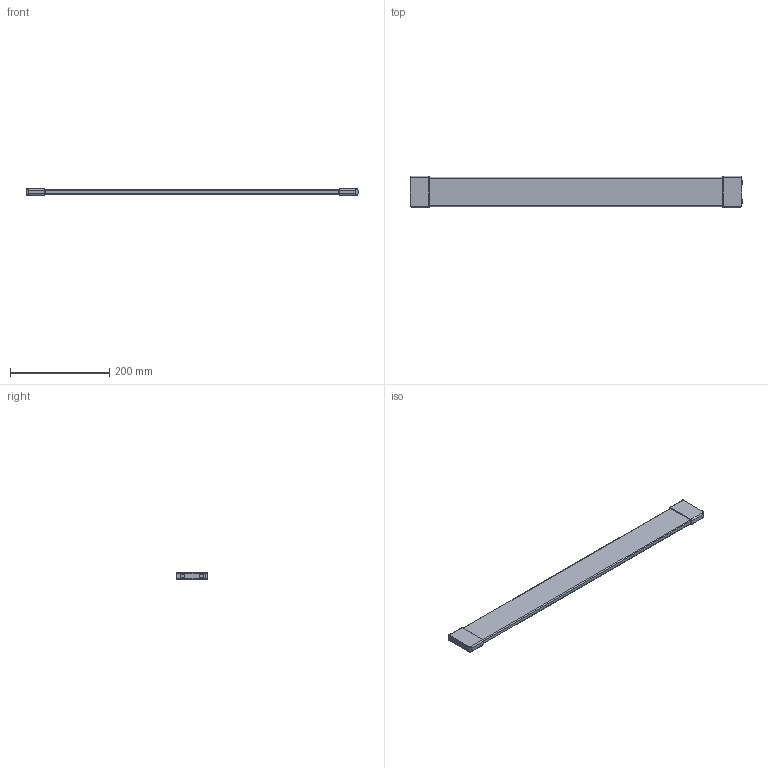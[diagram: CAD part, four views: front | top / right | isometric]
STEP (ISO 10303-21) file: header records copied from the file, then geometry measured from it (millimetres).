
FILE_DESCRIPTION (( 'STEP AP214' ), '1' );
FILE_NAME ('Schubkastenteiler_PROKAB_750.step', '2009-11-04T15:16:48', ( 'Waldinger Reinhard' ), ( 'Grass GmbH' ), 'SwSTEP 2.0', 'SolidWorks 2009', '' );
FILE_SCHEMA (( 'AUTOMOTIVE_DESIGN' ));
Length unit declared in the file: millimetre
Products named in the file (1): Schubkastenteiler_PROKAB_750
Bounding box: 667.9 x 63.7 x 13 mm (x, y, z)
Volume: 406106.9 mm3; surface area: 93417 mm2
Topology: 1 solids, 1 shells, 92 faces, 208 edges, 124 vertices
Faces by surface type: cylinder 38, torus 28, plane 22, bspline 4
Entity records: 3210 total; most frequent: CARTESIAN_POINT 1069, DIRECTION 486, ORIENTED_EDGE 416, EDGE_CURVE 208, AXIS2_PLACEMENT_3D 205, VERTEX_POINT 124, CIRCLE 116, EDGE_LOOP 98
